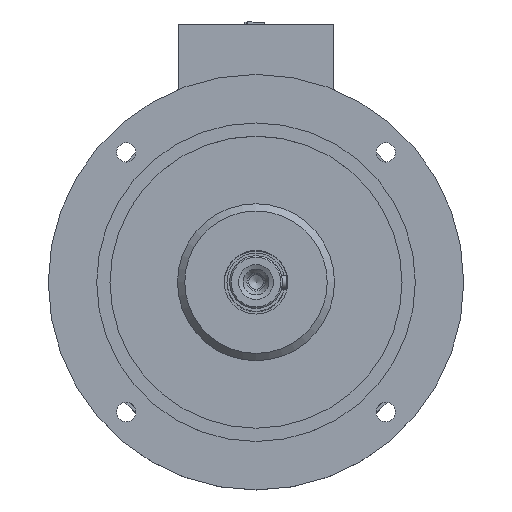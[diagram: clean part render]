
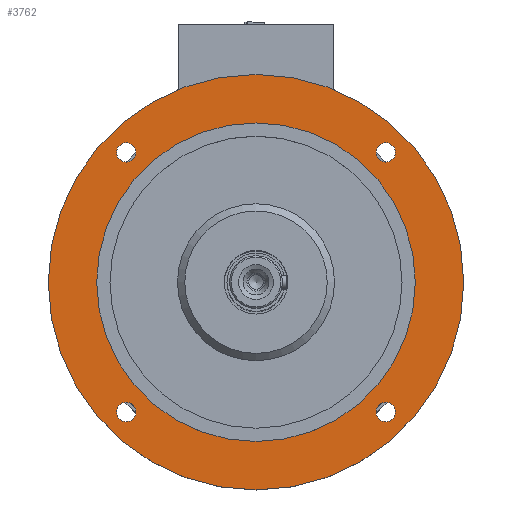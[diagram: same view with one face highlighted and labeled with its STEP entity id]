
A CAD part, top view. The second image highlights one B-rep face of the part: STEP entity #3762.
In plain terms, the highlighted planar face has unit normal (0, 0, 1).
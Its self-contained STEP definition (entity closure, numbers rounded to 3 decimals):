
#122 = PLANE ( 'NONE',  #6627 ) ;
#181 = CARTESIAN_POINT ( 'NONE',  ( 93.692, 93.692, 178. ) ) ;
#291 = CARTESIAN_POINT ( 'NONE',  ( -93.692, -100.692, 178. ) ) ;
#382 = EDGE_CURVE ( 'NONE', #11544, #11544, #8754, .T. ) ;
#1178 = DIRECTION ( 'NONE',  ( 1., 0., 0. ) ) ;
#1223 = EDGE_LOOP ( 'NONE', ( #12256 ) ) ;
#1260 = DIRECTION ( 'NONE',  ( 0., -1., 0. ) ) ;
#1426 = AXIS2_PLACEMENT_3D ( 'NONE', #10714, #9828, #1998 ) ;
#1441 = EDGE_LOOP ( 'NONE', ( #8309 ) ) ;
#1593 = AXIS2_PLACEMENT_3D ( 'NONE', #11588, #2923, #6789 ) ;
#1909 = CARTESIAN_POINT ( 'NONE',  ( 0., 0., 178. ) ) ;
#1936 = VERTEX_POINT ( 'NONE', #4962 ) ;
#1998 = DIRECTION ( 'NONE',  ( 1., 0., 0. ) ) ;
#2053 = CARTESIAN_POINT ( 'NONE',  ( -150., 0., 178. ) ) ;
#2170 = EDGE_CURVE ( 'NONE', #10710, #10710, #6721, .T. ) ;
#2176 = ORIENTED_EDGE ( 'NONE', *, *, #2170, .F. ) ;
#2326 = DIRECTION ( 'NONE',  ( 0., 0., 1. ) ) ;
#2441 = EDGE_LOOP ( 'NONE', ( #2176 ) ) ;
#2923 = DIRECTION ( 'NONE',  ( 0., 0., 1. ) ) ;
#3064 = AXIS2_PLACEMENT_3D ( 'NONE', #4796, #7778, #7658 ) ;
#3070 = FACE_BOUND ( 'NONE', #1441, .T. ) ;
#3542 = ORIENTED_EDGE ( 'NONE', *, *, #382, .T. ) ;
#3736 = DIRECTION ( 'NONE',  ( 0., 0., -1. ) ) ;
#3762 = ADVANCED_FACE ( 'NONE', ( #5974, #10839, #3070, #10903, #8068, #11731 ), #122, .T. ) ;
#4192 = CARTESIAN_POINT ( 'NONE',  ( 93.692, 100.692, 178. ) ) ;
#4613 = EDGE_CURVE ( 'NONE', #1936, #1936, #11477, .T. ) ;
#4796 = CARTESIAN_POINT ( 'NONE',  ( 0., 0., 178. ) ) ;
#4841 = CARTESIAN_POINT ( 'NONE',  ( -115., 0., 178. ) ) ;
#4867 = CIRCLE ( 'NONE', #8887, 7. ) ;
#4962 = CARTESIAN_POINT ( 'NONE',  ( -100.692, 93.692, 178. ) ) ;
#5095 = ORIENTED_EDGE ( 'NONE', *, *, #4613, .F. ) ;
#5974 = FACE_BOUND ( 'NONE', #11790, .T. ) ;
#6627 = AXIS2_PLACEMENT_3D ( 'NONE', #7879, #9832, #1178 ) ;
#6721 = CIRCLE ( 'NONE', #3064, 150. ) ;
#6789 = DIRECTION ( 'NONE',  ( -1., 0., 0. ) ) ;
#6938 = DIRECTION ( 'NONE',  ( 0., 0., 1. ) ) ;
#6984 = VERTEX_POINT ( 'NONE', #4192 ) ;
#7137 = EDGE_CURVE ( 'NONE', #9066, #9066, #8233, .T. ) ;
#7202 = CARTESIAN_POINT ( 'NONE',  ( -93.692, -93.692, 178. ) ) ;
#7658 = DIRECTION ( 'NONE',  ( -1., 0., 0. ) ) ;
#7778 = DIRECTION ( 'NONE',  ( 0., 0., -1. ) ) ;
#7879 = CARTESIAN_POINT ( 'NONE',  ( 0., 150., 178. ) ) ;
#8068 = FACE_BOUND ( 'NONE', #8572, .T. ) ;
#8233 = CIRCLE ( 'NONE', #8637, 7. ) ;
#8309 = ORIENTED_EDGE ( 'NONE', *, *, #11140, .F. ) ;
#8572 = EDGE_LOOP ( 'NONE', ( #3542 ) ) ;
#8637 = AXIS2_PLACEMENT_3D ( 'NONE', #7202, #2326, #1260 ) ;
#8697 = EDGE_LOOP ( 'NONE', ( #5095 ) ) ;
#8754 = CIRCLE ( 'NONE', #10363, 115. ) ;
#8815 = ORIENTED_EDGE ( 'NONE', *, *, #7137, .F. ) ;
#8887 = AXIS2_PLACEMENT_3D ( 'NONE', #181, #6938, #10722 ) ;
#9066 = VERTEX_POINT ( 'NONE', #291 ) ;
#9500 = CIRCLE ( 'NONE', #1426, 7. ) ;
#9828 = DIRECTION ( 'NONE',  ( 0., 0., 1. ) ) ;
#9832 = DIRECTION ( 'NONE',  ( 0., 0., 1. ) ) ;
#9950 = CARTESIAN_POINT ( 'NONE',  ( 100.692, -93.692, 178. ) ) ;
#10323 = EDGE_CURVE ( 'NONE', #10829, #10829, #9500, .T. ) ;
#10363 = AXIS2_PLACEMENT_3D ( 'NONE', #1909, #3736, #10437 ) ;
#10437 = DIRECTION ( 'NONE',  ( -1., 0., 0. ) ) ;
#10710 = VERTEX_POINT ( 'NONE', #2053 ) ;
#10714 = CARTESIAN_POINT ( 'NONE',  ( 93.692, -93.692, 178. ) ) ;
#10722 = DIRECTION ( 'NONE',  ( 0., 1., 0. ) ) ;
#10829 = VERTEX_POINT ( 'NONE', #9950 ) ;
#10839 = FACE_BOUND ( 'NONE', #8697, .T. ) ;
#10903 = FACE_BOUND ( 'NONE', #1223, .T. ) ;
#11140 = EDGE_CURVE ( 'NONE', #6984, #6984, #4867, .T. ) ;
#11477 = CIRCLE ( 'NONE', #1593, 7. ) ;
#11544 = VERTEX_POINT ( 'NONE', #4841 ) ;
#11588 = CARTESIAN_POINT ( 'NONE',  ( -93.692, 93.692, 178. ) ) ;
#11731 = FACE_OUTER_BOUND ( 'NONE', #2441, .T. ) ;
#11790 = EDGE_LOOP ( 'NONE', ( #8815 ) ) ;
#12256 = ORIENTED_EDGE ( 'NONE', *, *, #10323, .F. ) ;
